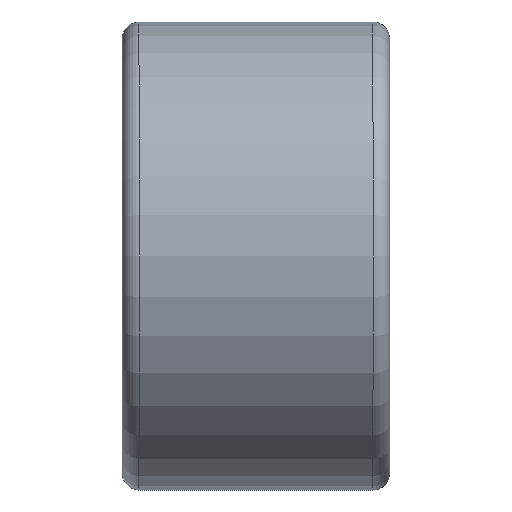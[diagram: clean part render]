
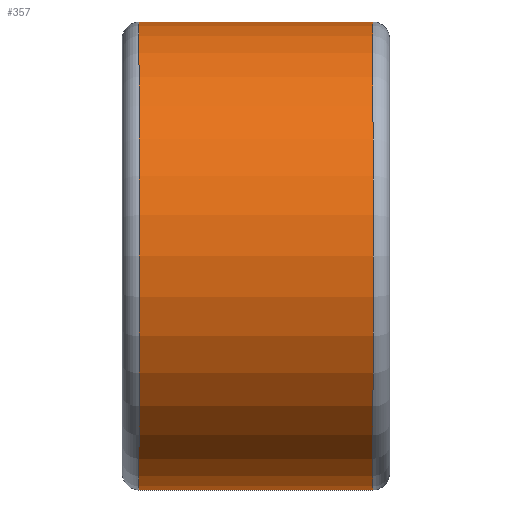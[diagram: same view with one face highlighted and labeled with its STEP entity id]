
A CAD part, front view. The second image highlights one B-rep face of the part: STEP entity #357.
In plain terms, the highlighted cylindrical face has radius 14 mm (diameter 28 mm), a full revolution.
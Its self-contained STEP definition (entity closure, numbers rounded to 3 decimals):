
#185=CYLINDRICAL_SURFACE('',#382,14.);
#193=FACE_BOUND('',#231,.T.);
#210=FACE_OUTER_BOUND('',#230,.T.);
#230=EDGE_LOOP('',(#320));
#231=EDGE_LOOP('',(#321));
#265=CIRCLE('',#381,14.);
#266=CIRCLE('',#383,14.);
#283=VERTEX_POINT('',#619);
#284=VERTEX_POINT('',#622);
#301=EDGE_CURVE('',#283,#283,#265,.T.);
#302=EDGE_CURVE('',#284,#284,#266,.T.);
#320=ORIENTED_EDGE('',*,*,#302,.F.);
#321=ORIENTED_EDGE('',*,*,#301,.F.);
#357=ADVANCED_FACE('',(#210,#193),#185,.T.);
#381=AXIS2_PLACEMENT_3D('',#620,#463,#464);
#382=AXIS2_PLACEMENT_3D('',#621,#465,#466);
#383=AXIS2_PLACEMENT_3D('',#623,#467,#468);
#463=DIRECTION('center_axis',(-1.,0.,0.));
#464=DIRECTION('ref_axis',(0.,-1.,0.));
#465=DIRECTION('center_axis',(1.,0.,0.));
#466=DIRECTION('ref_axis',(0.,1.,0.));
#467=DIRECTION('center_axis',(1.,0.,0.));
#468=DIRECTION('ref_axis',(0.,-1.,0.));
#619=CARTESIAN_POINT('',(-7.,14.,0.));
#620=CARTESIAN_POINT('Origin',(-7.,0.,0.));
#621=CARTESIAN_POINT('Origin',(0.,0.,
0.));
#622=CARTESIAN_POINT('',(7.,14.,0.));
#623=CARTESIAN_POINT('Origin',(7.,0.,0.));
